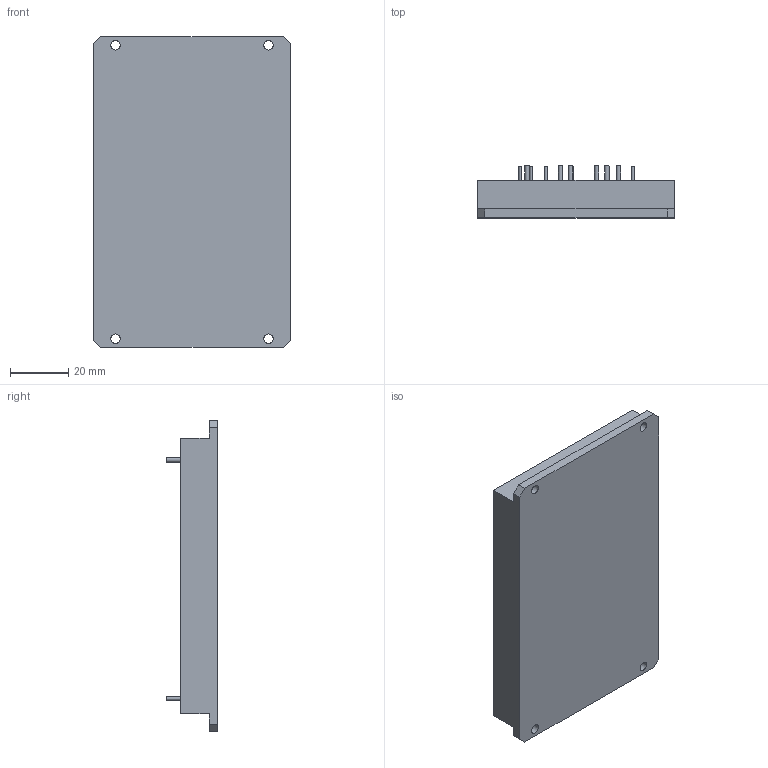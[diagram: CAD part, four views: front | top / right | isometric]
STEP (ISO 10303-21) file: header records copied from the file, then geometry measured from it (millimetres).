
FILE_DESCRIPTION(/* description */ (''),/* implementation_level */ '2;1');
FILE_NAME(/* name */ '',/* time_stamp */ '2020-02-28T15:08:29+01:00',/* author */ (''),/* organization */ (''),/* preprocessor_version */ 'ST-DEVELOPER v16.5',/* originating_system */ '',/* authorisation */ '');
FILE_SCHEMA (('AUTOMOTIVE_DESIGN { 1 0 10303 214 3 1 1 }'));
Length unit declared in the file: millimetre
Products named in the file (1): TESND600-F6_pins
Bounding box: 67.7 x 17.85 x 107 mm (x, y, z)
Volume: 78966.2 mm3; surface area: 19468.6 mm2
Topology: 15 solids, 15 shells, 69 faces, 118 edges, 80 vertices
Faces by surface type: plane 47, cylinder 22
Full cylindrical faces by diameter (mm): 1 x4, 1.5 x10, 3.2 x4
Entity records: 1554 total; most frequent: DIRECTION 280, CARTESIAN_POINT 242, ORIENTED_EDGE 192, AXIS2_PLACEMENT_3D 114, EDGE_LOOP 96, EDGE_CURVE 96, VERTEX_POINT 76, FACE_OUTER_BOUND 69
